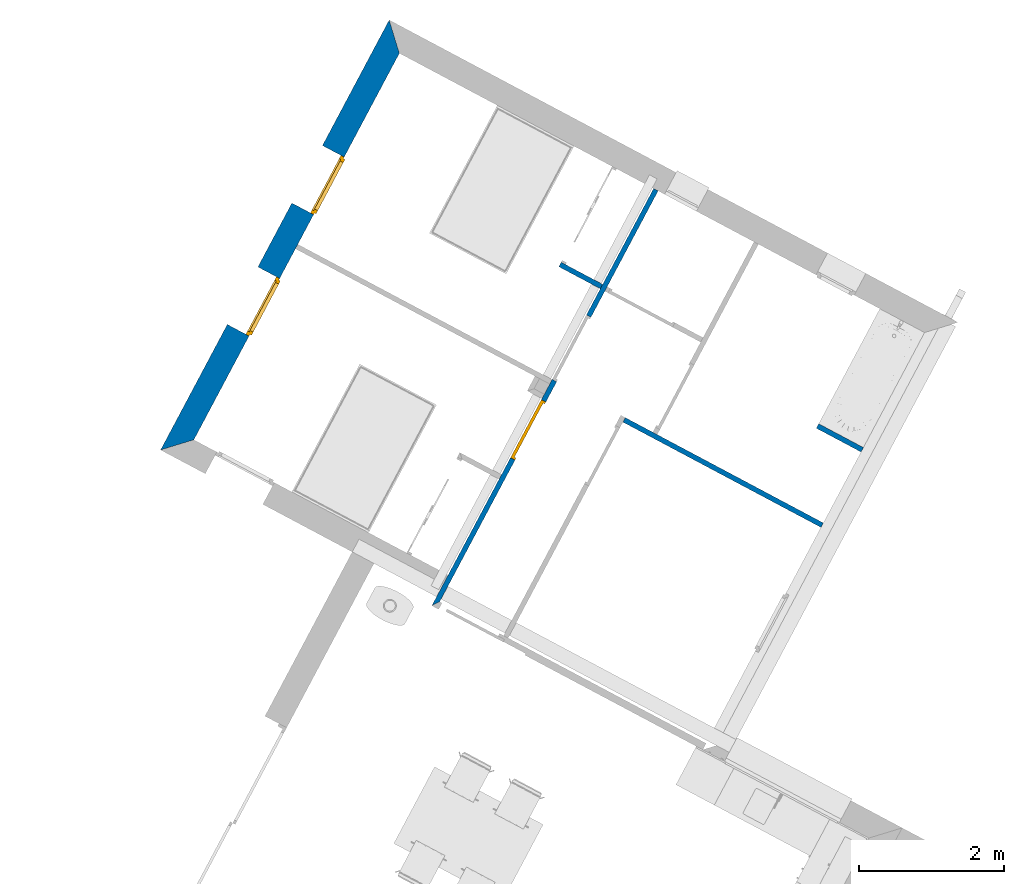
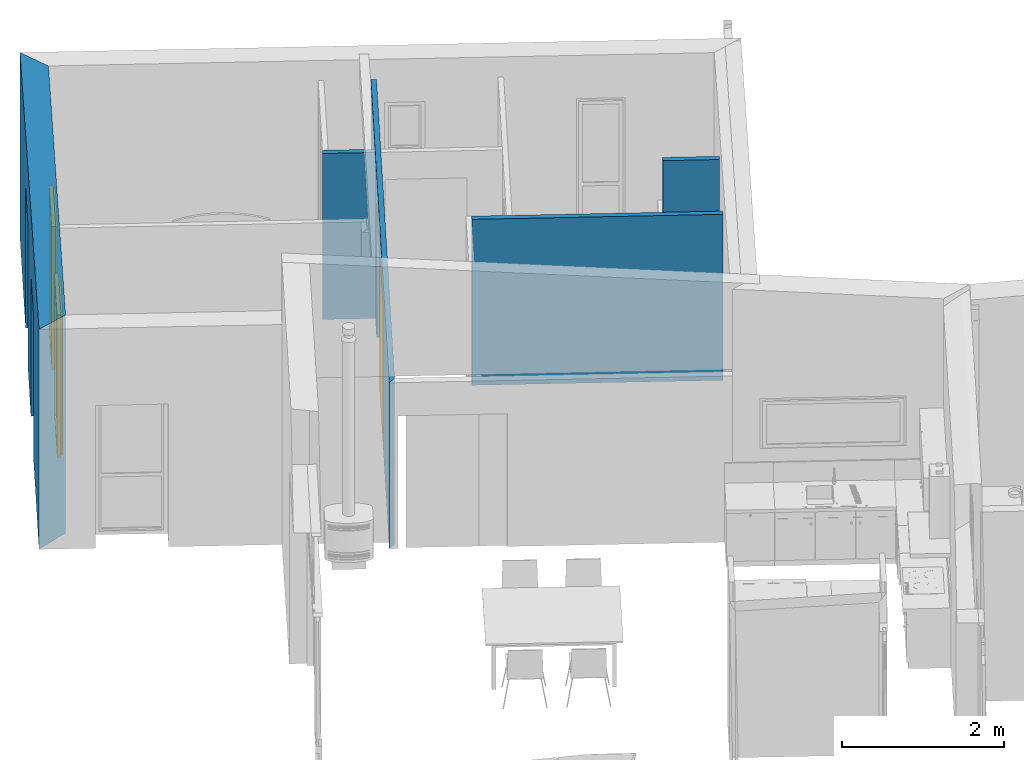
# One storey, part 6 of 27: 5 walls, 2 windows, 1 door, 4 openings.
"""IFC2X3 building model written with IfcOpenShell, lengths in metres."""

from ifc_helpers import new_model, entity, si_unit, converted_unit, derived_unit, money_unit, direction, frame, origin_with_axes, origin_2d_with_axis, place, context, subcontext, project, spatial, polyline, rectangle, outline, extrude, clip, halfspace, open_shell, faceted_brep, surface_model, source, transform, mapped, material, layer, layer_set, layer_usage, type_object, element, fill, save


model = new_model("IFC2X3")

# Units and contexts
model_context = context("Model", 3, precision=1e-05, world=origin_with_axes(), true_north=direction((0.0, 1.0)))
body_context = subcontext(model_context, "Body", "Model", "MODEL_VIEW")
ifc_project = project(units=[si_unit("LENGTHUNIT", "METRE"), si_unit("AREAUNIT", "SQUARE_METRE"), si_unit("VOLUMEUNIT", "CUBIC_METRE"), converted_unit("PLANEANGLEUNIT", "DEGREE", entity("IfcPlaneAngleMeasure", 0.0174532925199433), si_unit("PLANEANGLEUNIT", "RADIAN"), dimensions=[0, 0, 0, 0, 0, 0, 0]), money_unit("CHF"), converted_unit("TIMEUNIT", "Year", entity("IfcTimeMeasure", 31557600.0), si_unit("TIMEUNIT", "SECOND"), dimensions=[0, 0, 1, 0, 0, 0, 0]), si_unit("MASSUNIT", "GRAM", prefix="KILO"), si_unit("THERMODYNAMICTEMPERATUREUNIT", "DEGREE_CELSIUS"), si_unit("LUMINOUSINTENSITYUNIT", "LUMEN"), si_unit("ENERGYUNIT", "JOULE", prefix="MEGA"), derived_unit("THERMALCONDUCTANCEUNIT", [(si_unit("POWERUNIT", "WATT"), 1), (si_unit("LENGTHUNIT", "METRE"), -1), (si_unit("THERMODYNAMICTEMPERATUREUNIT", "KELVIN"), -1)]), derived_unit("SPECIFICHEATCAPACITYUNIT", [(si_unit("ENERGYUNIT", "JOULE"), 1), (si_unit("MASSUNIT", "GRAM", prefix="KILO"), -1), (si_unit("THERMODYNAMICTEMPERATUREUNIT", "KELVIN"), -1)]), derived_unit("MASSDENSITYUNIT", [(si_unit("MASSUNIT", "GRAM", prefix="KILO"), 1), (si_unit("VOLUMEUNIT", "CUBIC_METRE"), -1)])], contexts=[model_context])

# Site, building, storey
site_placement = place(None, frame((0.0, 0.0, 0.0), z_axis=(0.0, 0.0, 1.0), x_axis=(-0.4694715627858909, -0.8829475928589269, 0.0)))
site = spatial("IfcSite", under=ifc_project, at=site_placement, Name="Site", CompositionType="ELEMENT")
building_placement = place(site_placement, origin_with_axes())
building = spatial("IfcBuilding", under=site, at=building_placement, Name="Bâtiment", CompositionType="ELEMENT")
storey_placement = place(building_placement, origin_with_axes())
storey = spatial("IfcBuildingStorey", under=building, at=storey_placement, Name="RDC", CompositionType="ELEMENT", Elevation=0.0)

# Wall, openings, windows
ifc_material_1 = material(Name="Maçonnerie 290464332")
ifc_layer_1 = layer(ifc_material_1, 0.2, ventilated="UNKNOWN")
ifc_material_2 = material(Name="Isolation 272048125")
ifc_layer_2 = layer(ifc_material_2, 0.14, ventilated="UNKNOWN")
ifc_layer_set_1 = layer_set([ifc_layer_1, ifc_layer_2], Name="MUR EXT 34 0024849982")
ifc_layer_usage_1 = layer_usage(ifc_layer_set_1, "AXIS2", "POSITIVE", 0.0)
wall_type_1 = type_object("IfcWallType", Name="MUR EXT 34 0024849982 340", PredefinedType="NOTDEFINED")
wall_1_placement = place(storey_placement, frame((127.1595710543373, -840.1945991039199, 0.0), z_axis=(0.0, 0.0, 1.0), x_axis=(1.0, 0.0, 0.0)))
wall_1 = element("IfcWallStandardCase", 1, at=wall_1_placement, inside=storey, type_object=wall_type_1, material=ifc_layer_usage_1, Name="Mur-395", context=body_context, shape_type="Clipping", body=[
    clip(extrude(outline(polyline([(0.0, 0.0), (6.72999999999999, 0.0), (6.389999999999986, 0.3400000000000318), (0.3400000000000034, 0.3400000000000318), (0.0, 0.0)])), origin_with_axes(), (0.0, 0.0, 1.0), 5.0), halfspace(frame((-0.2205678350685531, 0.0, 2.757097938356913), z_axis=(0.07974522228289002, 0.0, -0.9968152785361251), x_axis=(0.0, 1.0, 0.0)), True)),
])
opening_1_placement = place(wall_1_placement, frame((2.415000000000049, 0.0, 0.0), z_axis=(0.0, 0.0, 1.0), x_axis=(1.0, 0.0, 0.0)))
opening_1 = element("IfcOpeningElement", 2, at=opening_1_placement, cuts=wall_1, Name="Fen-155", context=body_context, shape_type="SweptSolid", body=[
    extrude(rectangle(XDim=0.8999999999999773, YDim=2.15, at=origin_2d_with_axis()), frame((0.0, -0.3400000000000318, 1.075), z_axis=(0.0, -1.0, 0.0), x_axis=(1.0, 0.0, 0.0)), (0.0, 0.0, -1.0), 1.02),
])
opening_2_placement = place(wall_1_placement, frame((4.315000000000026, 0.0, 0.0), z_axis=(0.0, 0.0, 1.0), x_axis=(1.0, 0.0, 0.0)))
opening_2 = element("IfcOpeningElement", 3, at=opening_2_placement, cuts=wall_1, Name="Fen-156", context=body_context, shape_type="SweptSolid", body=[
    extrude(rectangle(XDim=0.8999999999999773, YDim=2.15, at=origin_2d_with_axis()), frame((0.0, -0.3400000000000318, 1.075), z_axis=(0.0, -1.0, 0.0), x_axis=(1.0, 0.0, 0.0)), (0.0, 0.0, -1.0), 1.02),
])
window_style = type_object("IfcWindowStyle", Name="Fen à carreaux 10", ConstructionType="NOTDEFINED", OperationType="SINGLE_PANEL", ParameterTakesPrecedence=False, Sizeable=False)
shared_shape_1 = source(origin_with_axes(), body_context, "Body", "SurfaceModel", [
    faceted_brep([(0.425, -0.05, 2.1), (0.45, -0.05, 2.1), (0.45, 0.0, 2.1), (0.4, 0.0, 2.1), (0.4, -0.02500000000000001, 2.1), (0.425, -0.02500000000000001, 2.1), (0.425, -0.05, 0.05000000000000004), (0.45, -0.05, 0.05000000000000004), (0.45, 0.0, 0.05000000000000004), (0.4, 0.0, 0.05000000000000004), (0.4, -0.02500000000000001, 0.05000000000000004), (0.425, -0.02500000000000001, 0.05000000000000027)], [[[0, 1, 2, 3, 4, 5]], [[6, 7, 1, 0]], [[1, 7, 8, 2]], [[3, 2, 8, 9]], [[4, 3, 9, 10]], [[10, 11, 5, 4]], [[5, 11, 6, 0]], [[11, 10, 9, 8, 7, 6]]]),
    faceted_brep([(-0.4, -0.02500000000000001, 2.1), (-0.4, 0.0, 2.1), (-0.45, 0.0, 2.1), (-0.45, -0.05, 2.1), (-0.425, -0.05, 2.1), (-0.425, -0.02500000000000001, 2.1), (-0.4, -0.02500000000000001, 0.05000000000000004), (-0.4, 0.0, 0.05000000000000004), (-0.45, 0.0, 0.05000000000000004), (-0.45, -0.05, 0.05000000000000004), (-0.425, -0.05, 0.05000000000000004), (-0.425, -0.02500000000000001, 0.05000000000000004)], [[[0, 1, 2, 3, 4, 5]], [[6, 7, 1, 0]], [[2, 1, 7, 8]], [[9, 3, 2, 8]], [[4, 3, 9, 10]], [[10, 11, 5, 4]], [[5, 11, 6, 0]], [[11, 10, 9, 8, 7, 6]]]),
    faceted_brep([(0.425, -0.05, 2.1), (0.45, -0.05, 2.1), (0.45, -0.05, 2.15), (-0.45, -0.05, 2.15), (-0.45, -0.05, 2.1), (-0.425, -0.05, 2.1), (-0.425, -0.05, 2.125), (0.425, -0.05, 2.125), (0.425, -0.02500000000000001, 2.1), (0.4, -0.02500000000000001, 2.1), (0.4, 0.0, 2.1), (0.45, 0.0, 2.1), (0.45, 0.0, 2.15), (-0.45, 0.0, 2.15), (-0.45, 0.0, 2.1), (-0.425, -0.02500000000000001, 2.1), (-0.4, 0.0, 2.1), (-0.4, -0.02500000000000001, 2.1), (-0.425, -0.02500000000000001, 2.125), (0.425, -0.02500000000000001, 2.125)], [[[0, 1, 2, 3, 4, 5, 6, 7]], [[8, 9, 10, 11, 1, 0]], [[2, 1, 11, 12]], [[3, 2, 12, 13]], [[4, 3, 13, 14]], [[15, 5, 4, 14, 16, 17]], [[5, 15, 18, 6]], [[6, 18, 19, 7]], [[7, 19, 8, 0]], [[17, 9, 8, 19, 18, 15]], [[17, 16, 10, 9]], [[10, 16, 14, 13, 12, 11]]]),
    faceted_brep([(-0.4, -0.02500000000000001, 0.05000000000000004), (-0.4, 0.0, 0.05000000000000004), (-0.45, 0.0, 0.05000000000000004), (-0.45, -0.05, 0.05000000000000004), (-0.425, -0.05, 0.05000000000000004), (-0.425, -0.02500000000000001, 0.05000000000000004), (0.4, -0.02500000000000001, 0.05000000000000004), (0.4, 0.0, 0.05000000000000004), (-0.45, 0.0, 0.0), (0.45, 0.0, 0.05000000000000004), (0.45, 0.0, 0.0), (-0.45, -0.05, 0.0), (0.425, -0.05, 0.02499999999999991), (-0.425, -0.05, 0.02499999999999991), (0.45, -0.05, 0.0), (0.45, -0.05, 0.05000000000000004), (0.425, -0.05, 0.05000000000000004), (-0.425, -0.02500000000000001, 0.02499999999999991), (0.425, -0.02500000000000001, 0.02499999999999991), (0.425, -0.02500000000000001, 0.05000000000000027)], [[[0, 1, 2, 3, 4, 5]], [[6, 7, 1, 0]], [[8, 2, 1, 7, 9, 10]], [[11, 3, 2, 8]], [[12, 13, 4, 3, 11, 14, 15, 16]], [[13, 17, 5, 4]], [[5, 17, 18, 19, 6, 0]], [[19, 16, 15, 9, 7, 6]], [[15, 14, 10, 9]], [[14, 11, 8, 10]], [[12, 18, 17, 13]], [[19, 18, 12, 16]]]),
    surface_model("IfcShellBasedSurfaceModel", [(0.375, -0.04, 0.07500000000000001), (-0.375, -0.04, 0.07500000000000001), (-0.375, -0.04, 0.8500000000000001), (0.375, -0.04, 0.8500000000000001)], [open_shell([[[0, 1, 2, 3]]])]),
    surface_model("IfcShellBasedSurfaceModel", [(0.375, -0.06, 0.07500000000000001), (0.375, -0.06, 0.8500000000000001), (-0.375, -0.06, 0.8500000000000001), (-0.375, -0.06, 0.07500000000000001)], [open_shell([[[0, 1, 2, 3]]])]),
    surface_model("IfcShellBasedSurfaceModel", [(0.375, -0.04, 0.9), (-0.375, -0.04, 0.9), (-0.375, -0.04, 2.075), (0.375, -0.04, 2.075)], [open_shell([[[0, 1, 2, 3]]])]),
    surface_model("IfcShellBasedSurfaceModel", [(0.375, -0.06, 0.9), (0.375, -0.06, 2.075), (-0.375, -0.06, 2.075), (-0.375, -0.06, 0.9)], [open_shell([[[0, 1, 2, 3]]])]),
    faceted_brep([(0.375, -0.02500000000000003, 0.07500000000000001), (0.375, -0.07500000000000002, 0.07500000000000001), (0.375, -0.07500000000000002, 2.075), (0.375, -0.02500000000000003, 2.075), (0.425, -0.02500000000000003, 0.07500000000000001), (0.425, -0.07500000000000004, 0.07500000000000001), (0.425, -0.07500000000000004, 2.075), (0.425, -0.02500000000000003, 2.075)], [[[0, 1, 2, 3]], [[4, 5, 1, 0]], [[1, 5, 6, 2]], [[3, 2, 6, 7]], [[0, 3, 7, 4]], [[7, 6, 5, 4]]]),
    faceted_brep([(-0.425, -0.02499999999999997, 0.07500000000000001), (-0.425, -0.07499999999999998, 0.07500000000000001), (-0.425, -0.07499999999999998, 2.075), (-0.425, -0.02499999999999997, 2.075), (-0.375, -0.02499999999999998, 0.07500000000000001), (-0.375, -0.07499999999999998, 0.07500000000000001), (-0.375, -0.07499999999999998, 2.075), (-0.375, -0.02499999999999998, 2.075)], [[[0, 1, 2, 3]], [[4, 5, 1, 0]], [[1, 5, 6, 2]], [[3, 2, 6, 7]], [[0, 3, 7, 4]], [[7, 6, 5, 4]]]),
    faceted_brep([(0.375, -0.02500000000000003, 0.9), (0.375, -0.07500000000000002, 0.9), (0.375, -0.07500000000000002, 0.85), (0.375, -0.02500000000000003, 0.85), (-0.375, -0.02499999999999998, 0.9), (-0.375, -0.07499999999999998, 0.9), (-0.375, -0.07499999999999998, 0.85), (-0.375, -0.02499999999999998, 0.85)], [[[0, 1, 2, 3]], [[4, 5, 1, 0]], [[1, 5, 6, 2]], [[3, 2, 6, 7]], [[0, 3, 7, 4]], [[7, 6, 5, 4]]]),
    faceted_brep([(0.425, -0.02500000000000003, 0.025), (0.425, -0.07500000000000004, 0.025), (-0.425, -0.07499999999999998, 0.025), (-0.425, -0.02499999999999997, 0.025), (0.425, -0.02500000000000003, 0.07500000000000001), (0.425, -0.07500000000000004, 0.07500000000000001), (0.375, -0.07500000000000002, 0.07500000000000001), (-0.375, -0.07499999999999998, 0.07500000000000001), (-0.425, -0.07499999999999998, 0.07500000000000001), (-0.425, -0.02499999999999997, 0.07500000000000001), (-0.375, -0.02499999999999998, 0.07500000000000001), (0.375, -0.02500000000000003, 0.07500000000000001)], [[[0, 1, 2, 3]], [[4, 5, 1, 0]], [[1, 5, 6, 7, 8, 2]], [[3, 2, 8, 9]], [[0, 3, 9, 10, 11, 4]], [[11, 6, 5, 4]], [[10, 7, 6, 11]], [[9, 8, 7, 10]]]),
    faceted_brep([(0.425, -0.02500000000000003, 2.075), (0.425, -0.07500000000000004, 2.075), (0.375, -0.07500000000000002, 2.075), (0.375, -0.02500000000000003, 2.075), (0.425, -0.02500000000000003, 2.125), (0.425, -0.07500000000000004, 2.125), (-0.425, -0.07499999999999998, 2.125), (-0.425, -0.07499999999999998, 2.075), (-0.375, -0.07499999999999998, 2.075), (-0.375, -0.02499999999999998, 2.075), (-0.425, -0.02499999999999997, 2.075), (-0.425, -0.02499999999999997, 2.125)], [[[0, 1, 2, 3]], [[4, 5, 1, 0]], [[1, 5, 6, 7, 8, 2]], [[3, 2, 8, 9]], [[0, 3, 9, 10, 11, 4]], [[11, 6, 5, 4]], [[10, 7, 6, 11]], [[9, 8, 7, 10]]]),
])
window_1_placement = place(opening_1_placement, frame((0.4500000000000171, 0.0, 0.0), z_axis=(0.0, 0.0, 1.0), x_axis=(-1.0, 0.0, 0.0)))
window_1 = element("IfcWindow", 4, at=window_1_placement, inside=storey, type_object=window_style, Name="Fen-155", OverallHeight=2.15, OverallWidth=0.9, context=body_context, shape_type="MappedRepresentation", body=[
    mapped(shared_shape_1, transform((0.4499999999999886, -0.2899999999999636, 0.0))),
])
fill(opening_1, window_1)
window_2_placement = place(opening_2_placement, frame((0.4500000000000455, 0.0, 0.0), z_axis=(0.0, 0.0, 1.0), x_axis=(-1.0, 0.0, 0.0)))
window_2 = element("IfcWindow", 5, at=window_2_placement, inside=storey, type_object=window_style, Name="Fen-156", OverallHeight=2.15, OverallWidth=0.9, context=body_context, shape_type="MappedRepresentation", body=[
    mapped(shared_shape_1, transform((0.4499999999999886, -0.2899999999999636, 0.0))),
])
fill(opening_2, window_2)

# Wall
ifc_material_3 = material(Name="Isolation 269295175")
ifc_layer_3 = layer(ifc_material_3, 0.07, ventilated="UNKNOWN")
ifc_layer_set_2 = layer_set([ifc_layer_3], Name="CLOISON 7 0024849982")
ifc_layer_usage_2 = layer_usage(ifc_layer_set_2, "AXIS2", "NEGATIVE", 0.0)
wall_type_2 = type_object("IfcWallType", Name="CLOISON 7 0024849982 70", PredefinedType="NOTDEFINED")
wall_2_placement = place(storey_placement, frame((130.5495710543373, -831.63459910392, 0.0), z_axis=(0.0, 0.0, 1.0), x_axis=(0.0, -1.0, 0.0)))
element("IfcWallStandardCase", 6, at=wall_2_placement, inside=storey, type_object=wall_type_2, material=ifc_layer_usage_2, Name="Mur-395", context=body_context, shape_type="SweptSolid", body=[
    extrude(outline(polyline([(0.0, -0.06999999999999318), (3.100000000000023, -0.06999999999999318), (3.100000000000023, 0.0), (0.0, 0.0), (0.0, -0.06999999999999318)])), origin_with_axes(), (0.0, 0.0, 1.0), 2.5),
])

# Wall, openings, door
ifc_layer_usage_3 = layer_usage(ifc_layer_set_2, "AXIS2", "NEGATIVE", 0.0)
wall_3_placement = place(storey_placement, frame((127.4995710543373, -835.8045991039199, 0.0), z_axis=(0.0, 0.0, 1.0), x_axis=(1.0, 0.0, 0.0)))
wall_3 = element("IfcWallStandardCase", 7, at=wall_3_placement, inside=storey, type_object=wall_type_2, material=ifc_layer_usage_3, Name="Mur-395", context=body_context, shape_type="SweptSolid", body=[
    extrude(outline(polyline([(0.0, -0.07000000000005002), (6.530000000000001, -0.07000000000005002), (6.430000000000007, 0.0), (0.0, 0.0), (0.0, -0.07000000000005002)])), origin_with_axes(), (0.0, 0.0, 1.0), 2.5),
])
opening_3_placement = place(wall_3_placement, frame((3.759272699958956, 0.0, 0.0), z_axis=(0.0, 0.0, 1.0), x_axis=(1.0, 0.0, 0.0)))
opening_3 = element("IfcOpeningElement", 8, at=opening_3_placement, cuts=wall_3, Name="porte 76", context=body_context, shape_type="SweptSolid", body=[
    extrude(rectangle(XDim=0.910000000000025, YDim=2.09, at=origin_2d_with_axis()), frame((0.0, 0.07000000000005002, 1.045), z_axis=(0.0, -1.0, 0.0), x_axis=(-1.0, 0.0, 0.0)), (0.0, 0.0, 1.0), 0.21),
])
opening_4_placement = place(wall_3_placement, frame((2.483017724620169, 0.0, 0.0), z_axis=(0.0, 0.0, 1.0), x_axis=(1.0, 0.0, 0.0)))
element("IfcOpeningElement", 9, at=opening_4_placement, cuts=wall_3, Name="porte 77", context=body_context, shape_type="SweptSolid", body=[
    extrude(rectangle(XDim=1.009999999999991, YDim=2.09, at=origin_2d_with_axis()), frame((0.0, 0.07000000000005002, 1.045), z_axis=(0.0, 1.0, 0.0), x_axis=(1.0, 0.0, 0.0)), (0.0, 0.0, -1.0), 0.21),
])
door_style = type_object("IfcDoorStyle", Name="P_int simple à carreaux 10", ConstructionType="NOTDEFINED", OperationType="SINGLE_SWING_RIGHT", ParameterTakesPrecedence=False, Sizeable=False)
shared_shape_2 = source(origin_with_axes(), body_context, "Body", "Brep", [
    faceted_brep([(-0.423, -0.044, 0.0), (-0.423, -0.044, 2.058), (-0.423, -0.07, 2.058), (-0.423, -0.07, 0.0), (-0.4350000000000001, -0.044, 2.058), (-0.4350000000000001, -0.044, 0.0), (-0.4350000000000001, 0.0, 2.058), (-0.4550000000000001, 0.0, 2.058), (-0.4550000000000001, -0.07, 2.058), (-0.4550000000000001, -0.07, 0.0), (-0.4550000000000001, 0.0, 0.0), (-0.4350000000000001, 0.0, 0.0)], [[[0, 1, 2, 3]], [[4, 1, 0, 5]], [[4, 6, 7, 8, 2, 1]], [[2, 8, 9, 3]], [[5, 0, 3, 9, 10, 11]], [[6, 4, 5, 11]], [[6, 11, 10, 7]], [[10, 9, 8, 7]]]),
    faceted_brep([(0.4350000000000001, -0.044, 2.058), (0.423, -0.044, 2.058), (0.423, -0.07, 2.058), (0.4550000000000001, -0.07, 2.058), (0.4550000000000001, 0.0, 2.058), (0.4350000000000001, 0.0, 2.058), (0.4350000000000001, -0.044, 0.0), (0.423, -0.044, 0.0), (0.423, -0.07, 0.0), (0.4550000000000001, -0.07, 0.0), (0.4550000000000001, 0.0, 0.0), (0.4350000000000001, 0.0, 0.0)], [[[0, 1, 2, 3, 4, 5]], [[1, 0, 6, 7]], [[1, 7, 8, 2]], [[3, 2, 8, 9]], [[4, 3, 9, 10]], [[11, 5, 4, 10]], [[0, 5, 11, 6]], [[6, 11, 10, 9, 8, 7]]]),
    faceted_brep([(-0.4350000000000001, 0.0, 2.07), (-0.4350000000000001, 0.0, 2.058), (-0.455, 0.0, 2.058), (-0.455, 0.0, 2.09), (0.455, 0.0, 2.09), (0.455, 0.0, 2.058), (0.4350000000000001, 0.0, 2.058), (0.4350000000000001, 0.0, 2.07), (-0.4350000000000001, -0.044, 2.07), (-0.4350000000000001, -0.044, 2.058), (-0.423, -0.044, 2.058), (-0.423, -0.07, 2.058), (-0.455, -0.07, 2.058), (-0.455, -0.07, 2.09), (0.455, -0.07, 2.09), (0.455, -0.07, 2.058), (0.4350000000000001, -0.044, 2.058), (0.423, -0.07, 2.058), (0.423, -0.044, 2.058), (0.4350000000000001, -0.044, 2.07)], [[[0, 1, 2, 3, 4, 5, 6, 7]], [[1, 0, 8, 9]], [[9, 10, 11, 12, 2, 1]], [[2, 12, 13, 3]], [[3, 13, 14, 4]], [[4, 14, 15, 5]], [[16, 6, 5, 15, 17, 18]], [[7, 6, 16, 19]], [[0, 7, 19, 8]], [[16, 18, 10, 9, 8, 19]], [[10, 18, 17, 11]], [[17, 15, 14, 13, 12, 11]]]),
    faceted_brep([(-0.1, -0.044, 0.0), (-0.1, -0.04400000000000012, 2.07), (-0.435, -0.04400000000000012, 2.07), (-0.435, -0.044, 0.0), (-0.1, 0.0, 2.07), (-0.1, 0.0, 0.0), (-0.435, 0.0, 2.07), (-0.435, 0.0, 0.0)], [[[0, 1, 2, 3]], [[4, 1, 0, 5]], [[1, 4, 6, 2]], [[3, 2, 6, 7]], [[5, 0, 3, 7]], [[4, 5, 7, 6]]]),
    faceted_brep([(0.1, 0.0, 2.07), (0.1, -0.04400000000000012, 2.07), (0.435, -0.04400000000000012, 2.07), (0.435, 0.0, 2.07), (0.1, -0.044, 0.0), (0.1, 0.0, 0.0), (0.435, -0.044, 0.0), (0.435, 0.0, 0.0)], [[[0, 1, 2, 3]], [[4, 1, 0, 5]], [[1, 4, 6, 2]], [[2, 6, 7, 3]], [[5, 0, 3, 7]], [[4, 5, 7, 6]]]),
    faceted_brep([(-0.1, 0.0, 1.87), (-0.1, -0.044, 1.87), (-0.1, -0.044, 2.07), (-0.1, 0.0, 2.07), (0.1, 0.0, 1.87), (0.1, -0.044, 1.87), (0.1, -0.044, 2.07), (0.1, 0.0, 2.07)], [[[0, 1, 2, 3]], [[4, 5, 1, 0]], [[1, 5, 6, 2]], [[3, 2, 6, 7]], [[0, 3, 7, 4]], [[7, 6, 5, 4]]]),
    faceted_brep([(-0.1, 0.0, 1.67), (-0.1, -0.044, 1.67), (-0.1, -0.044, 1.87), (-0.1, 0.0, 1.87), (0.1, 0.0, 1.67), (0.1, -0.044, 1.67), (0.1, -0.044, 1.87), (0.1, 0.0, 1.87)], [[[0, 1, 2, 3]], [[4, 5, 1, 0]], [[1, 5, 6, 2]], [[3, 2, 6, 7]], [[0, 3, 7, 4]], [[7, 6, 5, 4]]]),
    faceted_brep([(-0.1, 0.0, 1.47), (-0.1, -0.044, 1.47), (-0.1, -0.044, 1.67), (-0.1, 0.0, 1.67), (0.1, 0.0, 1.47), (0.1, -0.044, 1.47), (0.1, -0.044, 1.67), (0.1, 0.0, 1.67)], [[[0, 1, 2, 3]], [[4, 5, 1, 0]], [[1, 5, 6, 2]], [[3, 2, 6, 7]], [[0, 3, 7, 4]], [[7, 6, 5, 4]]]),
    faceted_brep([(-0.1, 0.0, 1.27), (-0.1, -0.044, 1.27), (-0.1, -0.044, 1.47), (-0.1, 0.0, 1.47), (0.1, 0.0, 1.27), (0.1, -0.044, 1.27), (0.1, -0.044, 1.47), (0.1, 0.0, 1.47)], [[[0, 1, 2, 3]], [[4, 5, 1, 0]], [[1, 5, 6, 2]], [[3, 2, 6, 7]], [[0, 3, 7, 4]], [[7, 6, 5, 4]]]),
    faceted_brep([(-0.1, 0.0, 1.07), (-0.1, -0.044, 1.07), (-0.1, -0.044, 1.27), (-0.1, 0.0, 1.27), (0.1, 0.0, 1.07), (0.1, -0.044, 1.07), (0.1, -0.044, 1.27), (0.1, 0.0, 1.27)], [[[0, 1, 2, 3]], [[4, 5, 1, 0]], [[1, 5, 6, 2]], [[3, 2, 6, 7]], [[0, 3, 7, 4]], [[7, 6, 5, 4]]]),
    faceted_brep([(-0.1, 0.0, 0.8700000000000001), (-0.1, -0.044, 0.8700000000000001), (-0.1, -0.044, 1.07), (-0.1, 0.0, 1.07), (0.1, 0.0, 0.8700000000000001), (0.1, -0.044, 0.8700000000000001), (0.1, -0.044, 1.07), (0.1, 0.0, 1.07)], [[[0, 1, 2, 3]], [[4, 5, 1, 0]], [[1, 5, 6, 2]], [[3, 2, 6, 7]], [[0, 3, 7, 4]], [[7, 6, 5, 4]]]),
    faceted_brep([(-0.1, 0.0, 0.6700000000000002), (-0.1, -0.044, 0.6700000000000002), (-0.1, -0.044, 0.8700000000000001), (-0.1, 0.0, 0.8700000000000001), (0.1, 0.0, 0.6700000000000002), (0.1, -0.044, 0.6700000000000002), (0.1, -0.044, 0.8700000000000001), (0.1, 0.0, 0.8700000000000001)], [[[0, 1, 2, 3]], [[4, 5, 1, 0]], [[1, 5, 6, 2]], [[3, 2, 6, 7]], [[0, 3, 7, 4]], [[7, 6, 5, 4]]]),
    faceted_brep([(-0.1, 0.0, 0.4700000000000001), (-0.1, -0.044, 0.4700000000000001), (-0.1, -0.044, 0.6700000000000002), (-0.1, 0.0, 0.6700000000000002), (0.1, 0.0, 0.4700000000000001), (0.1, -0.044, 0.4700000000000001), (0.1, -0.044, 0.6700000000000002), (0.1, 0.0, 0.6700000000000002)], [[[0, 1, 2, 3]], [[4, 5, 1, 0]], [[1, 5, 6, 2]], [[3, 2, 6, 7]], [[0, 3, 7, 4]], [[7, 6, 5, 4]]]),
    faceted_brep([(-0.1, 0.0, 0.2700000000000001), (-0.1, -0.044, 0.2700000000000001), (-0.1, -0.044, 0.4700000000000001), (-0.1, 0.0, 0.4700000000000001), (0.1, 0.0, 0.2700000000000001), (0.1, -0.044, 0.2700000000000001), (0.1, -0.044, 0.4700000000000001), (0.1, 0.0, 0.4700000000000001)], [[[0, 1, 2, 3]], [[4, 5, 1, 0]], [[1, 5, 6, 2]], [[3, 2, 6, 7]], [[0, 3, 7, 4]], [[7, 6, 5, 4]]]),
    faceted_brep([(-0.1, 0.0, 0.07000000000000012), (-0.1, -0.044, 0.07000000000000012), (-0.1, -0.044, 0.2700000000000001), (-0.1, 0.0, 0.2700000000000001), (0.1, 0.0, 0.07000000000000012), (0.1, -0.044, 0.07000000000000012), (0.1, -0.044, 0.2700000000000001), (0.1, 0.0, 0.2700000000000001)], [[[0, 1, 2, 3]], [[4, 5, 1, 0]], [[1, 5, 6, 2]], [[3, 2, 6, 7]], [[0, 3, 7, 4]], [[7, 6, 5, 4]]]),
    faceted_brep([(-0.1, -0.044, 0.0), (0.1, -0.044, 0.0), (0.1, -0.044, 0.07000000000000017), (-0.1, -0.044, 0.07000000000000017), (0.1, 0.0, 0.0), (-0.1, 0.0, 0.0), (0.1, 0.0, 0.07000000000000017), (-0.1, 0.0, 0.07000000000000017)], [[[0, 1, 2, 3]], [[4, 1, 0, 5]], [[1, 4, 6, 2]], [[3, 2, 6, 7]], [[5, 0, 3, 7]], [[4, 5, 7, 6]]]),
])
door_placement = place(opening_3_placement, frame((0.4550000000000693, 0.0, 0.0), z_axis=(0.0, 0.0, 1.0), x_axis=(-1.0, 0.0, 0.0)))
door = element("IfcDoor", 10, at=door_placement, inside=storey, type_object=door_style, Name="porte 76", OverallHeight=2.09, OverallWidth=0.91, context=body_context, shape_type="MappedRepresentation", body=[
    mapped(shared_shape_2, transform((0.4550000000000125, 0.07000000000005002, 0.0))),
])
fill(opening_3, door)

# Walls
ifc_layer_usage_4 = layer_usage(ifc_layer_set_2, "AXIS2", "POSITIVE", 0.0)
wall_4_placement = place(storey_placement, frame((128.9995710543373, -835.8045991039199, 0.0), z_axis=(0.0, 0.0, 1.0), x_axis=(0.0, -1.0, 0.0)))
element("IfcWallStandardCase", 11, at=wall_4_placement, inside=storey, type_object=wall_type_2, material=ifc_layer_usage_4, Name="Mur-395", context=body_context, shape_type="SweptSolid", body=[
    extrude(outline(polyline([(0.07000000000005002, 0.0), (0.7200000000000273, 0.0), (0.7200000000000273, 0.06999999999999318), (0.07000000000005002, 0.06999999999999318), (0.07000000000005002, 0.0)])), origin_with_axes(), (0.0, 0.0, 1.0), 2.5),
])
ifc_layer_usage_5 = layer_usage(ifc_layer_set_2, "AXIS2", "POSITIVE", 0.0)
wall_5_placement = place(storey_placement, frame((129.2995710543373, -831.29459910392, 0.0), z_axis=(0.0, 0.0, 1.0), x_axis=(0.0, -1.0, 0.0)))
element("IfcWallStandardCase", 12, at=wall_5_placement, inside=storey, type_object=wall_type_2, material=ifc_layer_usage_5, Name="Mur-395", context=body_context, shape_type="SweptSolid", body=[
    extrude(outline(polyline([(0.3400000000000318, 0.0), (1.040000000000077, 0.0), (1.040000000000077, 0.06999999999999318), (0.3400000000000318, 0.06999999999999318), (0.3400000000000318, 0.0)])), origin_with_axes(), (0.0, 0.0, 1.0), 2.5),
])

save(model, "model.ifc")
